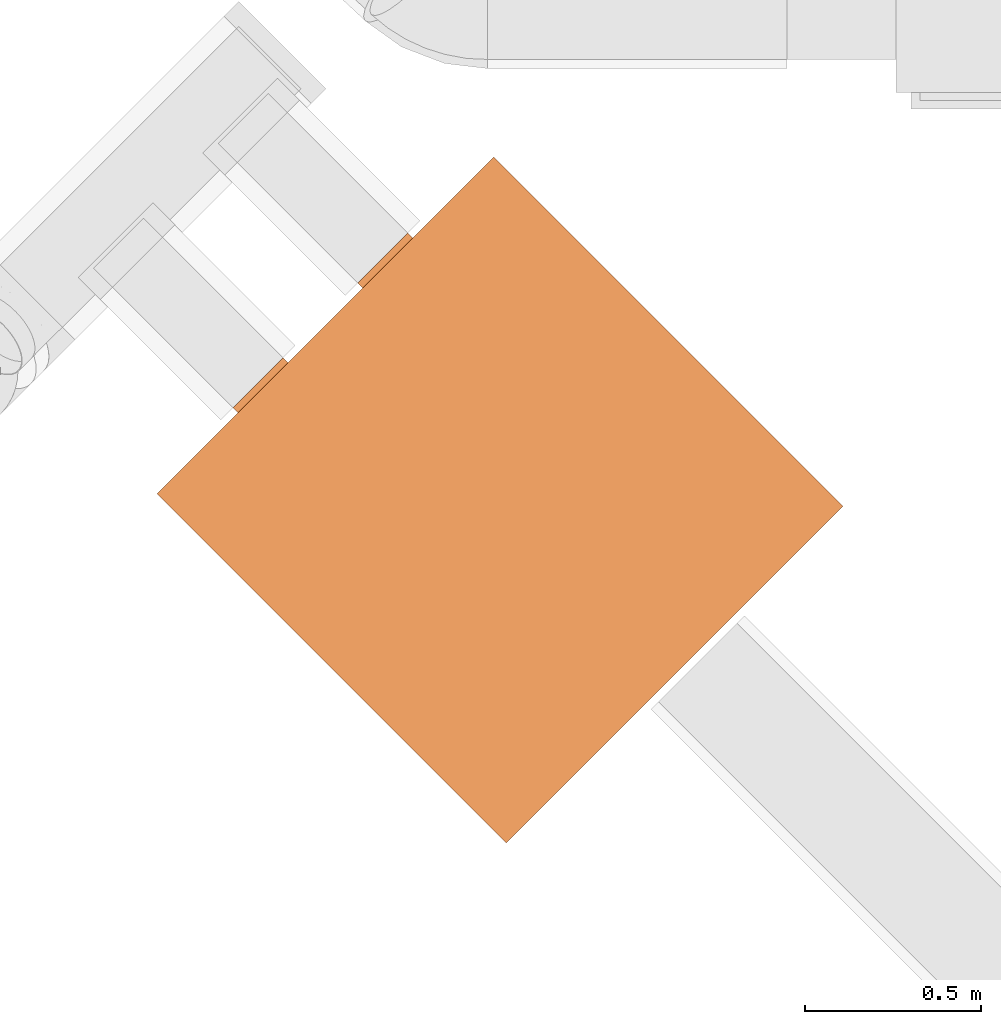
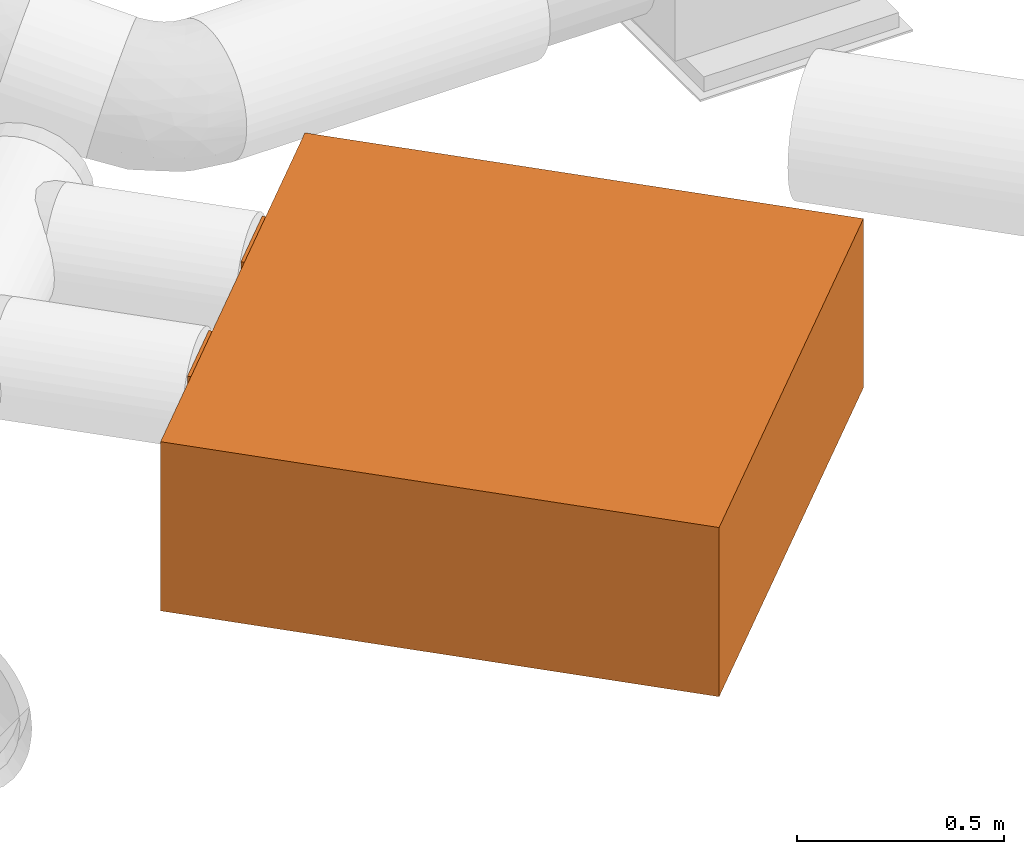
# One storey, part 12 of 12: 1 proxy.
"""IFC2X3 building model written with IfcOpenShell, lengths in millimetres."""

from ifc_helpers import new_model, entity, si_unit, converted_unit, derived_unit, direction, frame, origin_with_axes, place, context, subcontext, project, spatial, open_shell, surface_model, source, transform, mapped, element, save


model = new_model("IFC2X3")

# Units and contexts
model_context = context("Model", 3, precision=0.01, world=frame((0.0, 4.29681676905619e-09, 0.0)), true_north=direction((4.01073788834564e-13, 1.0)))
plan_context = context("Plan", 3, precision=0.01, world=frame((0.0, 4.29681676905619e-09, 0.0)), true_north=direction((4.01073788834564e-13, 1.0)))
body_context = subcontext(model_context, "Body", "Model", "MODEL_VIEW")
ifc_project = project(units=[converted_unit("PLANEANGLEUNIT", "DEGREE", entity("IfcPositiveLengthMeasure", 0.0174532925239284), si_unit("PLANEANGLEUNIT", "RADIAN"), dimensions=[0, 0, 0, 0, 0, 0, 0]), si_unit("AREAUNIT", "SQUARE_METRE"), si_unit("LENGTHUNIT", "METRE", prefix="MILLI"), si_unit("MASSUNIT", "GRAM", prefix="KILO"), si_unit("POWERUNIT", "WATT"), si_unit("PRESSUREUNIT", "PASCAL", prefix="KILO"), si_unit("FORCEUNIT", "NEWTON", prefix="KILO"), si_unit("ELECTRICVOLTAGEUNIT", "VOLT"), si_unit("ELECTRICCURRENTUNIT", "AMPERE"), si_unit("THERMODYNAMICTEMPERATUREUNIT", "DEGREE_CELSIUS"), si_unit("TIMEUNIT", "SECOND"), si_unit("VOLUMEUNIT", "CUBIC_METRE"), derived_unit("LINEARVELOCITYUNIT", [(si_unit("LENGTHUNIT", "METRE"), 1), (si_unit("TIMEUNIT", "SECOND"), -1)]), derived_unit("VOLUMETRICFLOWRATEUNIT", [(si_unit("VOLUMEUNIT", "CUBIC_METRE"), 1), (si_unit("TIMEUNIT", "SECOND"), -1)]), derived_unit("THERMALTRANSMITTANCEUNIT", [(si_unit("POWERUNIT", "WATT"), 1), (si_unit("THERMODYNAMICTEMPERATUREUNIT", "KELVIN"), -1), (si_unit("AREAUNIT", "SQUARE_METRE"), -1)]), derived_unit("SOUNDPRESSUREUNIT", [(si_unit("PRESSUREUNIT", "PASCAL"), 1)])], contexts=[model_context, plan_context])

# Site, building, storey
site_placement = place(None, frame((0.0, -4.29681676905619e-09, 0.0), z_axis=(0.0, 0.0, 1.0), x_axis=(1.0, 0.0, 0.0)))
site = spatial("IfcSite", under=ifc_project, at=site_placement, CompositionType="ELEMENT")
building_placement = place(site_placement, frame((0.0, 4.29681676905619e-09, 0.0), z_axis=(0.0, 0.0, 1.0), x_axis=(1.0, 0.0, 0.0)))
building = spatial("IfcBuilding", under=site, at=building_placement, Name="mc-building", CompositionType="ELEMENT")
storey_placement = place(building_placement, frame((0.0, 0.0, 204000.0), z_axis=(0.0, 0.0, 1.0), x_axis=(1.0, 0.0, 0.0)))
storey = spatial("IfcBuildingStorey", under=building, at=storey_placement, Name="Nivå D", CompositionType="ELEMENT", Elevation=204000.0)

# Proxy
shared_shape = source(origin_with_axes(), body_context, "Body", "SurfaceModel", [
    surface_model("IfcShellBasedSurfaceModel", [(1419.99995, -1025.0, 270.0), (1419.99995, -825.0, 270.0), (1419.99995, -825.0, 470.00002), (1419.99995, -1025.0, 470.00002), (1400.00001, -1025.0, 470.00002), (1400.00001, -825.0, 470.00002), (1400.00001, -1025.0, 270.0), (1400.00001, -825.0, 270.0), (1419.99995, -525.0, 270.0), (1419.99995, -325.0, 270.0), (1419.99995, -325.0, 470.00002), (1419.99995, -525.0, 470.00002), (1400.00001, -525.0, 470.00002), (1400.00001, -325.0, 470.00002), (1400.00001, -525.0, 270.0), (1400.00001, -325.0, 270.0), (1400.00001, -1350.00001, 500.0), (1400.00001, 0.0, 500.0), (0.0, -1350.00001, 500.0), (0.0, 0.0, 500.0), (0.0, -1350.00001, 0.0), (0.0, 0.0, 0.0), (1400.00001, 0.0, 0.0), (1400.00001, -1350.00001, 0.0)], [open_shell([[[0, 1, 2]], [[2, 3, 0]], [[4, 5, 6]], [[7, 6, 5]], [[2, 1, 7]], [[7, 5, 2]], [[3, 2, 5]], [[5, 4, 3]], [[0, 3, 4]], [[4, 6, 0]], [[1, 0, 6]], [[6, 7, 1]], [[8, 9, 10]], [[10, 11, 8]], [[12, 13, 14]], [[15, 14, 13]], [[10, 9, 15]], [[15, 13, 10]], [[11, 10, 13]], [[13, 12, 11]], [[8, 11, 12]], [[12, 14, 8]], [[9, 8, 14]], [[14, 15, 9]], [[16, 17, 18]], [[19, 18, 17]], [[20, 21, 22]], [[22, 23, 20]], [[19, 17, 22]], [[22, 21, 19]], [[18, 19, 20]], [[21, 20, 19]], [[16, 18, 20]], [[20, 23, 16]], [[17, 16, 22]], [[23, 22, 16]]])]),
])
proxy_placement = place(storey_placement, frame((598728.91101, 401668.2686, 2300.0), z_axis=(0.0, 0.0, 1.0), x_axis=(-0.707106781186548, 0.707106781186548, 0.0)))
element("IfcBuildingElementProxy", 1, at=proxy_placement, inside=storey, Name="KRO Damphette 1350x1400x500_tilkobling i front", context=body_context, shape_type="MappedRepresentation", body=[
    mapped(shared_shape, transform((0.0, 0.0, 0.0), scale=1.0)),
])

save(model, "model.ifc")
